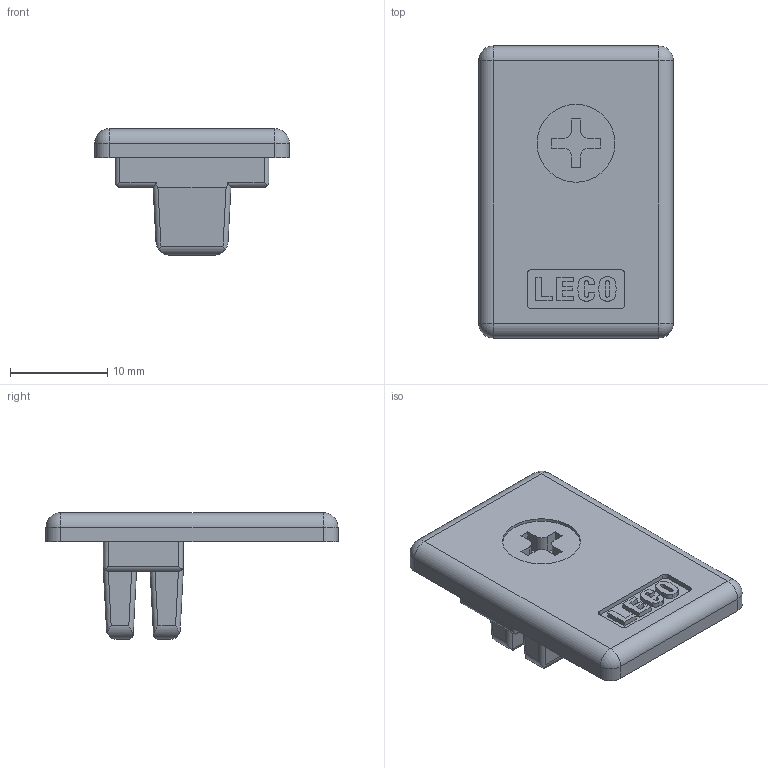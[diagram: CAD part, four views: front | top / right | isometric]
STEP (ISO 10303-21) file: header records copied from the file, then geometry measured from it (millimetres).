
FILE_DESCRIPTION(('STEP AP214'),'1');
FILE_NAME('EP23S.stp','2017-07-24T04:49:36',(' '),(' '),'Spatial InterOp 3D',' ',' ');
FILE_SCHEMA(('automotive_design'));
Length unit declared in the file: millimetre
Products named in the file (1): EP23S
Bounding box: 20 x 30 x 13 mm (x, y, z)
Volume: 2147.8 mm3; surface area: 2078.8 mm2
Topology: 1 solids, 1 shells, 173 faces, 467 edges, 302 vertices
Faces by surface type: plane 90, cylinder 79, sphere 4
Full cylindrical faces by diameter (mm): 8 x1
Entity records: 6886 total; most frequent: CARTESIAN_POINT 1082, DIRECTION 924, ORIENTED_EDGE 924, EDGE_CURVE 462, AXIS2_PLACEMENT_3D 312, VERTEX_POINT 302, LINE 300, VECTOR 300
